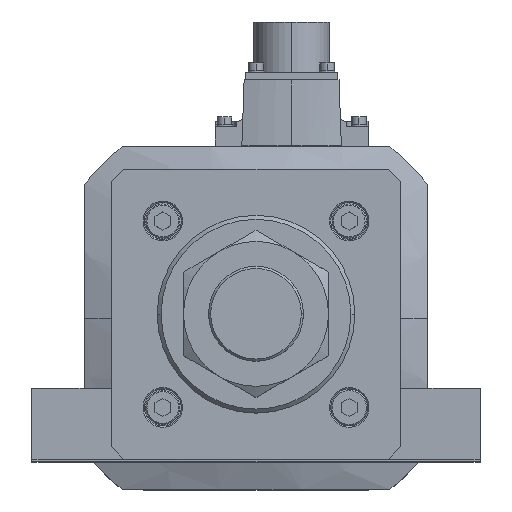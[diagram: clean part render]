
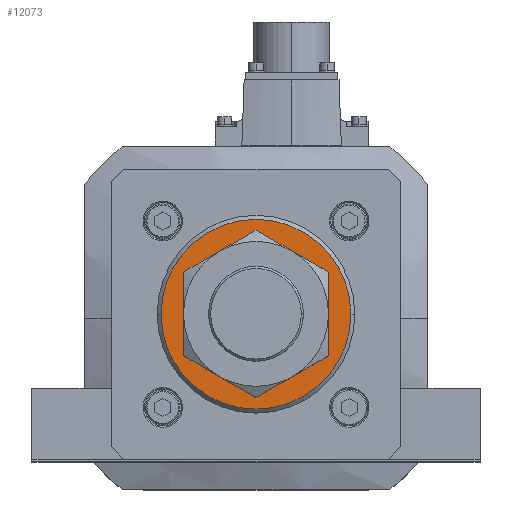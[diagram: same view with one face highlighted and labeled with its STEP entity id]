
A CAD part, top view. The second image highlights one B-rep face of the part: STEP entity #12073.
In plain terms, the highlighted planar face has unit normal (0, 0, 1).
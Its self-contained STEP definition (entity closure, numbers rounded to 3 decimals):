
#1812 = DIRECTION ( 'NONE',  ( 1., 0., 0. ) ) ;
#2149 = FACE_BOUND ( 'NONE', #37181, .T. ) ;
#2851 = EDGE_CURVE ( 'NONE', #36357, #19454, #13110, .T. ) ;
#3073 = DIRECTION ( 'NONE',  ( 1., 0., 0. ) ) ;
#3327 = CARTESIAN_POINT ( 'NONE',  ( 0., 0., 596. ) ) ;
#3766 = DIRECTION ( 'NONE',  ( 0., 0., 1. ) ) ;
#4975 = AXIS2_PLACEMENT_3D ( 'NONE', #8936, #35249, #3073 ) ;
#4992 = CARTESIAN_POINT ( 'NONE',  ( 36., 0., 596. ) ) ;
#5799 = CIRCLE ( 'NONE', #24273, 36. ) ;
#6270 = DIRECTION ( 'NONE',  ( 1., 0., 0. ) ) ;
#7280 = AXIS2_PLACEMENT_3D ( 'NONE', #34342, #7898, #1812 ) ;
#7461 = AXIS2_PLACEMENT_3D ( 'NONE', #32066, #28748, #25933 ) ;
#7898 = DIRECTION ( 'NONE',  ( 0., 0., -1. ) ) ;
#8936 = CARTESIAN_POINT ( 'NONE',  ( 0., 0., 596. ) ) ;
#9743 = CIRCLE ( 'NONE', #4975, 36. ) ;
#12073 = ADVANCED_FACE ( 'NONE', ( #2149, #15346 ), #32884, .T. ) ;
#12207 = CARTESIAN_POINT ( 'NONE',  ( 0., 0., 596. ) ) ;
#13110 = CIRCLE ( 'NONE', #7461, 23. ) ;
#13811 = EDGE_CURVE ( 'NONE', #35467, #32329, #9743, .T. ) ;
#14349 = ORIENTED_EDGE ( 'NONE', *, *, #2851, .T. ) ;
#15346 = FACE_OUTER_BOUND ( 'NONE', #18000, .T. ) ;
#15435 = ORIENTED_EDGE ( 'NONE', *, *, #21768, .T. ) ;
#15873 = CARTESIAN_POINT ( 'NONE',  ( -23., 0., 596. ) ) ;
#17363 = CIRCLE ( 'NONE', #7280, 23. ) ;
#18000 = EDGE_LOOP ( 'NONE', ( #20805, #35370 ) ) ;
#19454 = VERTEX_POINT ( 'NONE', #34218 ) ;
#20805 = ORIENTED_EDGE ( 'NONE', *, *, #13811, .T. ) ;
#21768 = EDGE_CURVE ( 'NONE', #19454, #36357, #17363, .T. ) ;
#22914 = AXIS2_PLACEMENT_3D ( 'NONE', #12207, #3766, #35696 ) ;
#24122 = DIRECTION ( 'NONE',  ( 0., 0., 1. ) ) ;
#24273 = AXIS2_PLACEMENT_3D ( 'NONE', #3327, #24122, #6270 ) ;
#25933 = DIRECTION ( 'NONE',  ( 1., 0., 0. ) ) ;
#26891 = EDGE_CURVE ( 'NONE', #32329, #35467, #5799, .T. ) ;
#28748 = DIRECTION ( 'NONE',  ( 0., 0., -1. ) ) ;
#32066 = CARTESIAN_POINT ( 'NONE',  ( 0., 0., 596. ) ) ;
#32329 = VERTEX_POINT ( 'NONE', #4992 ) ;
#32884 = PLANE ( 'NONE',  #22914 ) ;
#34218 = CARTESIAN_POINT ( 'NONE',  ( 23., 0., 596. ) ) ;
#34342 = CARTESIAN_POINT ( 'NONE',  ( 0., 0., 596. ) ) ;
#35249 = DIRECTION ( 'NONE',  ( 0., 0., 1. ) ) ;
#35370 = ORIENTED_EDGE ( 'NONE', *, *, #26891, .T. ) ;
#35467 = VERTEX_POINT ( 'NONE', #35745 ) ;
#35696 = DIRECTION ( 'NONE',  ( 1., 0., 0. ) ) ;
#35745 = CARTESIAN_POINT ( 'NONE',  ( -36., 0., 596. ) ) ;
#36357 = VERTEX_POINT ( 'NONE', #15873 ) ;
#37181 = EDGE_LOOP ( 'NONE', ( #15435, #14349 ) ) ;
